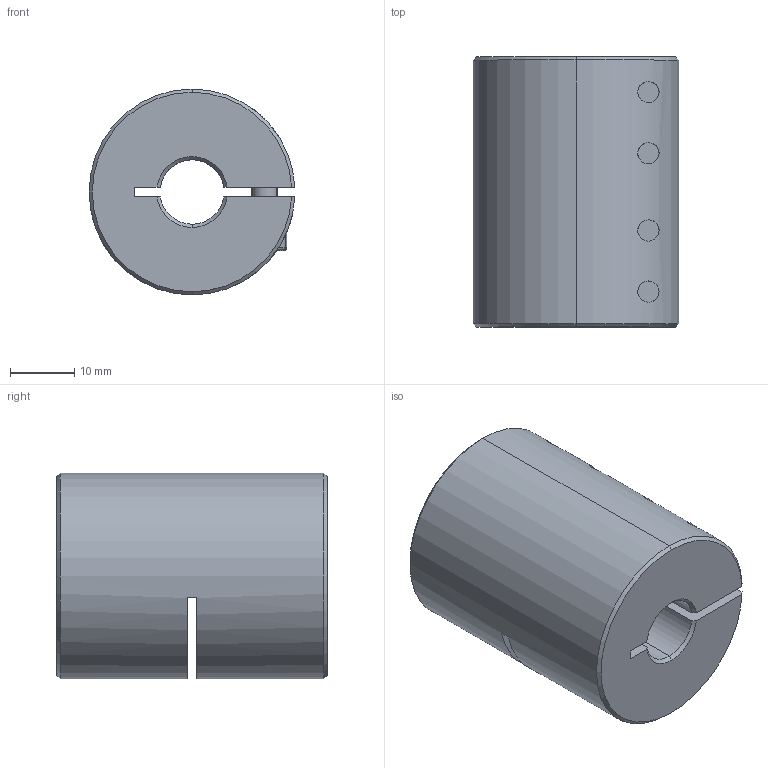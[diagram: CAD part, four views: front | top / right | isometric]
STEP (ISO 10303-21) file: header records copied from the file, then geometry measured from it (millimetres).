
FILE_DESCRIPTION (( 'STEP AP203' ), '1' );
FILE_NAME ('LL-B-D32L42-10-10.STEP', '2021-11-05T07:46:58', ( '' ), ( '' ), 'SwSTEP 2.0', 'SolidWorks 2018', '' );
FILE_SCHEMA (( 'CONFIG_CONTROL_DESIGN' ));
Length unit declared in the file: millimetre
Products named in the file (1): LL-B-D32L42-10-10
Bounding box: 31.98 x 42 x 32 mm (x, y, z)
Volume: 28149 mm3; surface area: 10299.7 mm2
Topology: 1 solids, 1 shells, 188 faces, 477 edges, 299 vertices
Faces by surface type: plane 86, cylinder 74, cone 20, torus 8
Entity records: 6205 total; most frequent: CARTESIAN_POINT 1529, DIRECTION 1006, ORIENTED_EDGE 938, EDGE_CURVE 469, AXIS2_PLACEMENT_3D 392, VERTEX_POINT 299, LINE 222, VECTOR 222
